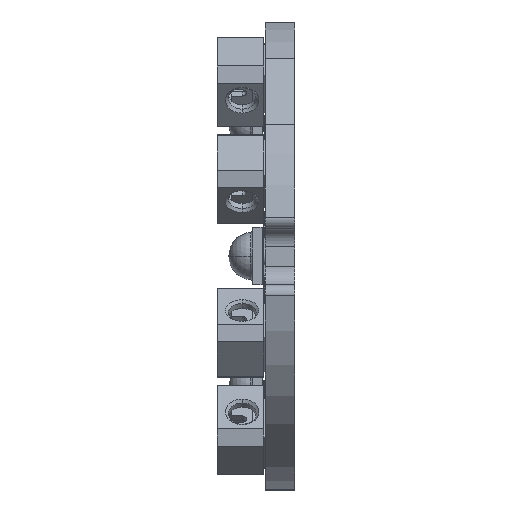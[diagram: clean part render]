
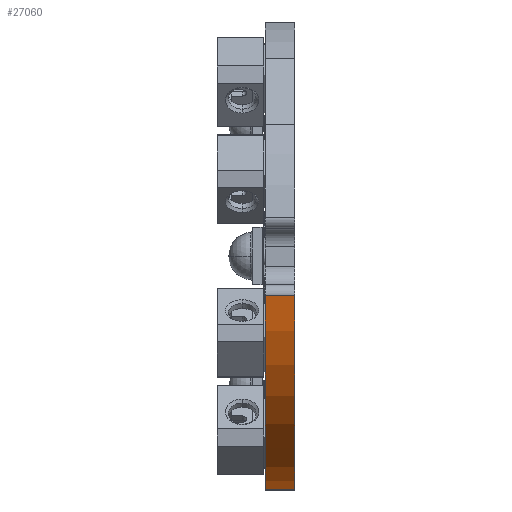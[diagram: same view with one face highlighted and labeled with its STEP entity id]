
A CAD part, left-side view. The second image highlights one B-rep face of the part: STEP entity #27060.
In plain terms, the highlighted cylindrical face has radius 12.708 mm (diameter 25.416 mm), a partial arc.
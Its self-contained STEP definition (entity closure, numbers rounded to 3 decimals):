
#3584 = ORIENTED_EDGE ( 'NONE', *, *, #71455, .F. ) ;
#3860 = EDGE_CURVE ( 'NONE', #10325, #38366, #40420, .T. ) ;
#4439 = LINE ( 'NONE', #80357, #6636 ) ;
#5193 = EDGE_CURVE ( 'NONE', #74125, #10325, #4439, .T. ) ;
#6636 = VECTOR ( 'NONE', #28654, 1000. ) ;
#7444 = LINE ( 'NONE', #40018, #47027 ) ;
#9572 = ORIENTED_EDGE ( 'NONE', *, *, #3860, .T. ) ;
#10325 = VERTEX_POINT ( 'NONE', #34267 ) ;
#12225 = CARTESIAN_POINT ( 'NONE',  ( 59.418, 1.6, -26.022 ) ) ;
#12808 = AXIS2_PLACEMENT_3D ( 'NONE', #28181, #60451, #40213 ) ;
#15387 = AXIS2_PLACEMENT_3D ( 'NONE', #28707, #16756, #17175 ) ;
#16417 = ORIENTED_EDGE ( 'NONE', *, *, #58251, .F. ) ;
#16756 = DIRECTION ( 'NONE',  ( 0., 1., 0. ) ) ;
#17175 = DIRECTION ( 'NONE',  ( 0., 0., 1. ) ) ;
#21438 = DIRECTION ( 'NONE',  ( 0., -1., 0. ) ) ;
#24576 = CYLINDRICAL_SURFACE ( 'NONE', #35436, 12.708 ) ;
#27060 = ADVANCED_FACE ( 'NONE', ( #38609 ), #24576, .T. ) ;
#28181 = CARTESIAN_POINT ( 'NONE',  ( 59.418, 1.6, -26.022 ) ) ;
#28654 = DIRECTION ( 'NONE',  ( 0., -1., 0. ) ) ;
#28707 = CARTESIAN_POINT ( 'NONE',  ( 59.418, 0., -26.022 ) ) ;
#31589 = DIRECTION ( 'NONE',  ( 0., 0., -1. ) ) ;
#34267 = CARTESIAN_POINT ( 'NONE',  ( 57.342, 0., -38.559 ) ) ;
#34546 = CARTESIAN_POINT ( 'NONE',  ( 46.888, 0., -28.143 ) ) ;
#35436 = AXIS2_PLACEMENT_3D ( 'NONE', #12225, #62637, #31589 ) ;
#38366 = VERTEX_POINT ( 'NONE', #34546 ) ;
#38609 = FACE_OUTER_BOUND ( 'NONE', #80351, .T. ) ;
#40018 = CARTESIAN_POINT ( 'NONE',  ( 46.888, 1.6, -28.143 ) ) ;
#40213 = DIRECTION ( 'NONE',  ( 0., 0., 1. ) ) ;
#40420 = CIRCLE ( 'NONE', #15387, 12.708 ) ;
#41838 = CIRCLE ( 'NONE', #12808, 12.708 ) ;
#47027 = VECTOR ( 'NONE', #21438, 1000. ) ;
#53610 = VERTEX_POINT ( 'NONE', #61036 ) ;
#58251 = EDGE_CURVE ( 'NONE', #53610, #38366, #7444, .T. ) ;
#59366 = CARTESIAN_POINT ( 'NONE',  ( 57.342, 1.6, -38.559 ) ) ;
#60451 = DIRECTION ( 'NONE',  ( 0., 1., 0. ) ) ;
#61036 = CARTESIAN_POINT ( 'NONE',  ( 46.888, 1.6, -28.143 ) ) ;
#62637 = DIRECTION ( 'NONE',  ( 0., -1., 0. ) ) ;
#62971 = ORIENTED_EDGE ( 'NONE', *, *, #5193, .T. ) ;
#71455 = EDGE_CURVE ( 'NONE', #74125, #53610, #41838, .T. ) ;
#74125 = VERTEX_POINT ( 'NONE', #59366 ) ;
#80351 = EDGE_LOOP ( 'NONE', ( #9572, #16417, #3584, #62971 ) ) ;
#80357 = CARTESIAN_POINT ( 'NONE',  ( 57.342, 1.6, -38.559 ) ) ;
